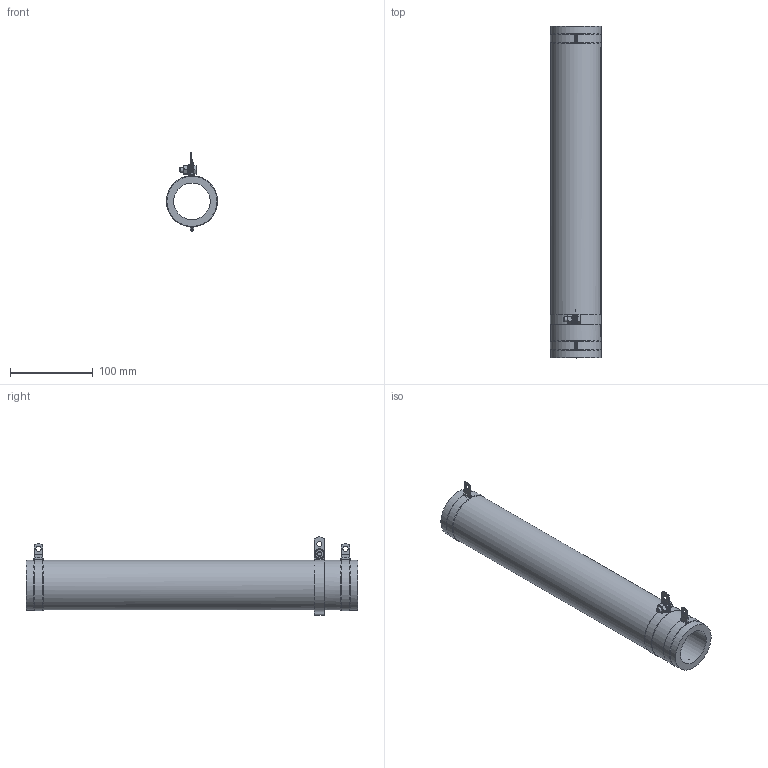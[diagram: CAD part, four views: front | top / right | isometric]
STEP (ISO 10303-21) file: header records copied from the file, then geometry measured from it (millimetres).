
FILE_DESCRIPTION(/* description */ (''),/* implementation_level */ '2;1');
FILE_NAME(/* name */ 'C:\_Vault\Dati\CATALOGO\RCA-RSA\R 25-1000\3D\RCAR 800.stp',/* time_stamp */ '2014-03-18T16:41:29+01:00',/* author */ ('stefano'),/* organization */ (''),/* preprocessor_version */ 'ST-DEVELOPER v15.2',/* originating_system */ 'Autodesk Inventor 2014',/* authorisation */ '');
FILE_SCHEMA (('AUTOMOTIVE_DESIGN { 1 0 10303 214 3 1 1 }'));
Length unit declared in the file: millimetre
Products named in the file (1): RCAR 800
Bounding box: 61.53 x 400 x 94.11 mm (x, y, z)
Volume: 546723.2 mm3; surface area: 138632.7 mm2
Topology: 1 solids, 9 shells, 1041 faces, 2481 edges, 1638 vertices
Faces by surface type: plane 759, cylinder 238, cone 20, torus 20, bspline 4
Full cylindrical faces by diameter (mm): 4.2 x1, 6 x2, 6.2 x3, 6.3 x2, 6.4 x1, 8.88 x1, 12 x1, 12.5 x1, 44 x1, 60.5 x3
Entity records: 31472 total; most frequent: CARTESIAN_POINT 5690, DIRECTION 5274, ORIENTED_EDGE 4906, EDGE_CURVE 2453, AXIS2_PLACEMENT_3D 1885, VERTEX_POINT 1629, LINE 1504, VECTOR 1504
